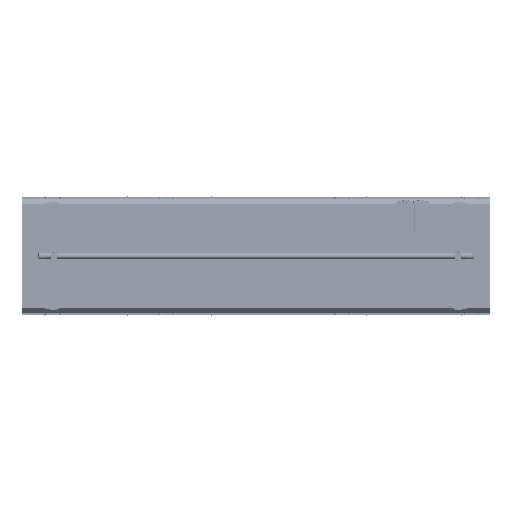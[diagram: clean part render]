
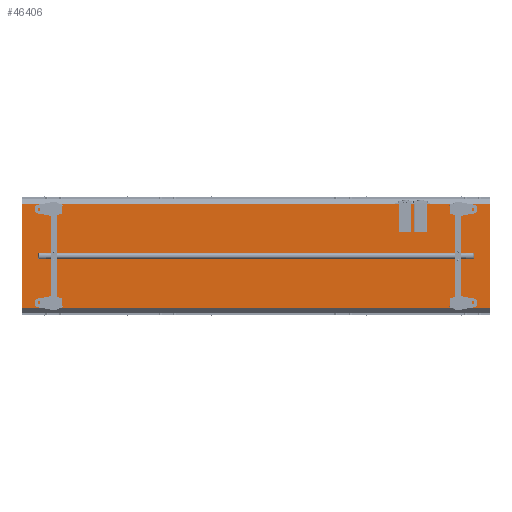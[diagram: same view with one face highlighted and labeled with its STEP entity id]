
A CAD part, front view. The second image highlights one B-rep face of the part: STEP entity #46406.
In plain terms, the highlighted planar face has unit normal (0, -1, 0).
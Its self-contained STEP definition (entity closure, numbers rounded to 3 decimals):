
#4279 = VECTOR ( 'NONE', #99380, 1000. ) ;
#7071 = LINE ( 'NONE', #116575, #44950 ) ;
#7692 = LINE ( 'NONE', #63404, #48623 ) ;
#16675 = CARTESIAN_POINT ( 'NONE',  ( 2516.172, -215.213, 219.787 ) ) ;
#23465 = LINE ( 'NONE', #54158, #86479 ) ;
#32839 = CARTESIAN_POINT ( 'NONE',  ( 1985., -215.213, -219.787 ) ) ;
#41677 = CARTESIAN_POINT ( 'NONE',  ( 1985., -215.213, 219.787 ) ) ;
#43566 = DIRECTION ( 'NONE',  ( -1., 0., 0. ) ) ;
#44950 = VECTOR ( 'NONE', #107303, 1000. ) ;
#46087 = CARTESIAN_POINT ( 'NONE',  ( 1985., -215.213, 219.787 ) ) ;
#46406 = ADVANCED_FACE ( 'NONE', ( #91596 ), #87498, .F. ) ;
#48623 = VECTOR ( 'NONE', #43566, 1000. ) ;
#52287 = ORIENTED_EDGE ( 'NONE', *, *, #101268, .T. ) ;
#54158 = CARTESIAN_POINT ( 'NONE',  ( 0., -215.213, 219.787 ) ) ;
#56849 = EDGE_LOOP ( 'NONE', ( #82180, #52287, #58226, #85632 ) ) ;
#58226 = ORIENTED_EDGE ( 'NONE', *, *, #99419, .T. ) ;
#63404 = CARTESIAN_POINT ( 'NONE',  ( 1985., -215.213, -219.787 ) ) ;
#68608 = DIRECTION ( 'NONE',  ( 0., 0., 1. ) ) ;
#73173 = VERTEX_POINT ( 'NONE', #41677 ) ;
#73387 = CARTESIAN_POINT ( 'NONE',  ( 0., -215.213, 219.787 ) ) ;
#74449 = DIRECTION ( 'NONE',  ( 0., 0., -1. ) ) ;
#75428 = VERTEX_POINT ( 'NONE', #76669 ) ;
#76288 = VERTEX_POINT ( 'NONE', #32839 ) ;
#76669 = CARTESIAN_POINT ( 'NONE',  ( 0., -215.213, -219.787 ) ) ;
#82180 = ORIENTED_EDGE ( 'NONE', *, *, #92377, .F. ) ;
#82992 = AXIS2_PLACEMENT_3D ( 'NONE', #16675, #118083, #68608 ) ;
#85632 = ORIENTED_EDGE ( 'NONE', *, *, #123292, .T. ) ;
#86479 = VECTOR ( 'NONE', #74449, 1000. ) ;
#87498 = PLANE ( 'NONE',  #82992 ) ;
#91596 = FACE_OUTER_BOUND ( 'NONE', #56849, .T. ) ;
#92377 = EDGE_CURVE ( 'NONE', #76288, #75428, #7692, .T. ) ;
#99380 = DIRECTION ( 'NONE',  ( 0., 0., 1. ) ) ;
#99419 = EDGE_CURVE ( 'NONE', #73173, #109401, #7071, .T. ) ;
#101268 = EDGE_CURVE ( 'NONE', #76288, #73173, #121054, .T. ) ;
#107303 = DIRECTION ( 'NONE',  ( -1., 0., 0. ) ) ;
#109401 = VERTEX_POINT ( 'NONE', #73387 ) ;
#116575 = CARTESIAN_POINT ( 'NONE',  ( 2516.172, -215.213, 219.787 ) ) ;
#118083 = DIRECTION ( 'NONE',  ( 0., 1., 0. ) ) ;
#121054 = LINE ( 'NONE', #46087, #4279 ) ;
#123292 = EDGE_CURVE ( 'NONE', #109401, #75428, #23465, .T. ) ;
